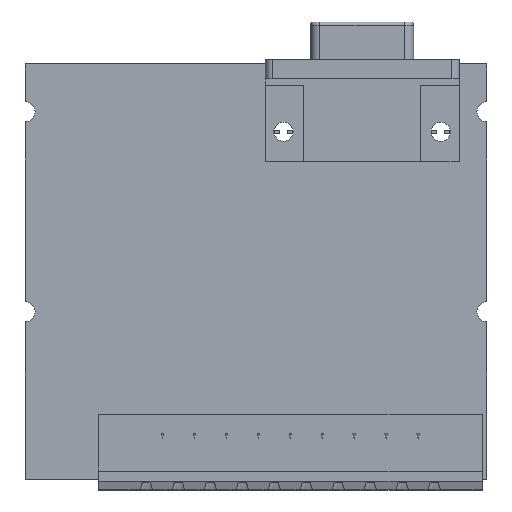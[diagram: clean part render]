
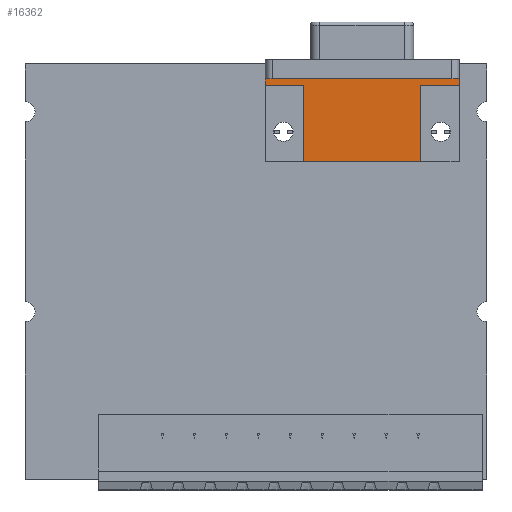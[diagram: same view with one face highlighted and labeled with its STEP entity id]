
A CAD part, top view. The second image highlights one B-rep face of the part: STEP entity #16362.
In plain terms, the highlighted planar face has unit normal (0, 0, 1).
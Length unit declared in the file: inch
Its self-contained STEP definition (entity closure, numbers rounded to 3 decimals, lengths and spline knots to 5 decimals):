
#4463=DIRECTION('',(0.,1.,0.));
#4464=VECTOR('',#4463,0.04);
#4465=CARTESIAN_POINT('',(1.27,1.165,0.476));
#4466=LINE('',#4465,#4464);
#4483=DIRECTION('',(-1.,0.,0.));
#4484=VECTOR('',#4483,0.733);
#4485=CARTESIAN_POINT('',(1.03,0.6865,0.476));
#4486=LINE('',#4485,#4484);
#4507=DIRECTION('',(0.,1.,0.));
#4508=VECTOR('',#4507,0.04);
#4509=CARTESIAN_POINT('',(0.057,1.165,0.476));
#4510=LINE('',#4509,#4508);
#4631=DIRECTION('',(0.,1.,0.));
#4632=VECTOR('',#4631,0.4785);
#4633=CARTESIAN_POINT('',(0.297,0.6865,0.476));
#4634=LINE('',#4633,#4632);
#4635=DIRECTION('',(1.,0.,0.));
#4636=VECTOR('',#4635,0.24);
#4637=CARTESIAN_POINT('',(0.057,1.165,0.476));
#4638=LINE('',#4637,#4636);
#4639=DIRECTION('',(-1.,0.,0.));
#4640=VECTOR('',#4639,1.213);
#4641=CARTESIAN_POINT('',(1.27,1.205,0.476));
#4642=LINE('',#4641,#4640);
#4643=DIRECTION('',(-1.,0.,0.));
#4644=VECTOR('',#4643,0.24);
#4645=CARTESIAN_POINT('',(1.27,1.165,0.476));
#4646=LINE('',#4645,#4644);
#4647=DIRECTION('',(0.,1.,0.));
#4648=VECTOR('',#4647,0.4785);
#4649=CARTESIAN_POINT('',(1.03,0.6865,0.476));
#4650=LINE('',#4649,#4648);
#7469=CARTESIAN_POINT('',(1.27,1.205,0.476));
#7470=CARTESIAN_POINT('',(0.057,1.205,0.476));
#7471=VERTEX_POINT('',#7469);
#7472=VERTEX_POINT('',#7470);
#7481=CARTESIAN_POINT('',(0.297,0.6865,0.476));
#7482=VERTEX_POINT('',#7481);
#7483=CARTESIAN_POINT('',(1.03,0.6865,0.476));
#7484=VERTEX_POINT('',#7483);
#7487=CARTESIAN_POINT('',(1.27,1.165,0.476));
#7488=VERTEX_POINT('',#7487);
#7491=CARTESIAN_POINT('',(0.057,1.165,0.476));
#7492=VERTEX_POINT('',#7491);
#7501=CARTESIAN_POINT('',(0.297,1.165,0.476));
#7502=VERTEX_POINT('',#7501);
#7503=CARTESIAN_POINT('',(1.03,1.165,0.476));
#7504=VERTEX_POINT('',#7503);
#16343=CARTESIAN_POINT('',(0.6635,1.325,0.476));
#16344=DIRECTION('',(0.,0.,1.));
#16345=DIRECTION('',(1.,0.,0.));
#16346=AXIS2_PLACEMENT_3D('',#16343,#16344,#16345);
#16347=PLANE('',#16346);
#16349=ORIENTED_EDGE('',*,*,#16348,.T.);
#16351=ORIENTED_EDGE('',*,*,#16350,.F.);
#16352=ORIENTED_EDGE('',*,*,#16230,.T.);
#16353=ORIENTED_EDGE('',*,*,#16337,.F.);
#16354=ORIENTED_EDGE('',*,*,#16183,.F.);
#16356=ORIENTED_EDGE('',*,*,#16355,.T.);
#16358=ORIENTED_EDGE('',*,*,#16357,.F.);
#16359=ORIENTED_EDGE('',*,*,#16207,.T.);
#16360=EDGE_LOOP('',(#16349,#16351,#16352,#16353,#16354,#16356,#16358,#16359));
#16361=FACE_OUTER_BOUND('',#16360,.F.);
#16362=ADVANCED_FACE('',(#16361),#16347,.T.);
#16183=EDGE_CURVE('',#7488,#7471,#4466,.T.);
#16207=EDGE_CURVE('',#7484,#7482,#4486,.T.);
#16230=EDGE_CURVE('',#7492,#7472,#4510,.T.);
#16337=EDGE_CURVE('',#7471,#7472,#4642,.T.);
#16348=EDGE_CURVE('',#7482,#7502,#4634,.T.);
#16350=EDGE_CURVE('',#7492,#7502,#4638,.T.);
#16355=EDGE_CURVE('',#7488,#7504,#4646,.T.);
#16357=EDGE_CURVE('',#7484,#7504,#4650,.T.);
